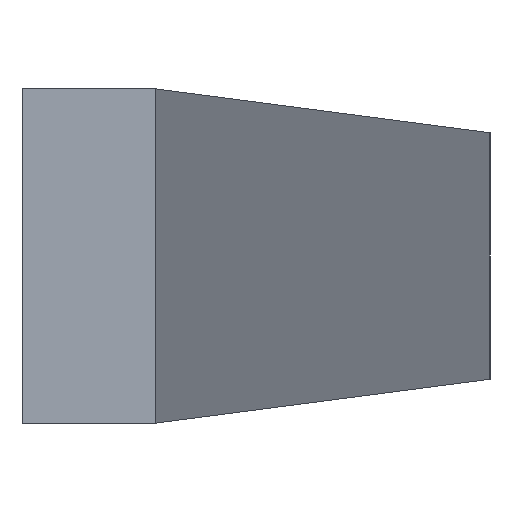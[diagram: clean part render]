
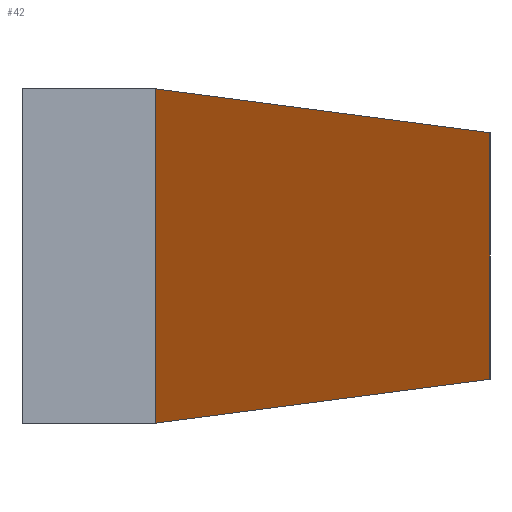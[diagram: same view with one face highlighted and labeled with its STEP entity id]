
A CAD part, left-side view. The second image highlights one B-rep face of the part: STEP entity #42.
In plain terms, the highlighted planar face has unit normal (-0.132, -0.991, 0).
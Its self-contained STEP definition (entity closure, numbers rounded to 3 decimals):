
#42 = ADVANCED_FACE( '', ( #92 ), #93, .F. );
#92 = FACE_OUTER_BOUND( '', #151, .T. );
#93 = PLANE( '', #152 );
#151 = EDGE_LOOP( '', ( #215, #216, #217, #218 ) );
#152 = AXIS2_PLACEMENT_3D( '', #219, #220, #221 );
#215 = ORIENTED_EDGE( '', *, *, #344, .T. );
#216 = ORIENTED_EDGE( '', *, *, #345, .T. );
#217 = ORIENTED_EDGE( '', *, *, #346, .F. );
#218 = ORIENTED_EDGE( '', *, *, #342, .T. );
#219 = CARTESIAN_POINT( '', ( -25., -10., 12.5 ) );
#220 = DIRECTION( '', ( 0.132, 0.991, 0. ) );
#221 = DIRECTION( '', ( -0.991, 0.132, 0. ) );
#342 = EDGE_CURVE( '', #384, #400, #402, .T. );
#344 = EDGE_CURVE( '', #400, #404, #405, .T. );
#345 = EDGE_CURVE( '', #404, #406, #407, .T. );
#346 = EDGE_CURVE( '', #384, #406, #408, .T. );
#384 = VERTEX_POINT( '', #458 );
#400 = VERTEX_POINT( '', #480 );
#402 = LINE( '', #483, #484 );
#404 = VERTEX_POINT( '', #486 );
#405 = LINE( '', #487, #488 );
#406 = VERTEX_POINT( '', #489 );
#407 = LINE( '', #490, #491 );
#408 = LINE( '', #492, #493 );
#458 = CARTESIAN_POINT( '', ( 162.868, -34.991, 9.221 ) );
#480 = CARTESIAN_POINT( '', ( -25., -10., 12.5 ) );
#483 = CARTESIAN_POINT( '', ( -25., -10., 12.5 ) );
#484 = VECTOR( '', #569, 1000. );
#486 = CARTESIAN_POINT( '', ( -25., -10., -12.5 ) );
#487 = CARTESIAN_POINT( '', ( -25., -10., 12.5 ) );
#488 = VECTOR( '', #570, 1000. );
#489 = CARTESIAN_POINT( '', ( 162.868, -34.991, -9.221 ) );
#490 = CARTESIAN_POINT( '', ( -24.571, -10.057, -12.493 ) );
#491 = VECTOR( '', #571, 1000. );
#492 = CARTESIAN_POINT( '', ( 162.868, -34.991, 12.5 ) );
#493 = VECTOR( '', #572, 1000. );
#569 = DIRECTION( '', ( -0.991, 0.132, 0.017 ) );
#570 = DIRECTION( '', ( 0., 0., -1. ) );
#571 = DIRECTION( '', ( 0.991, -0.132, 0.017 ) );
#572 = DIRECTION( '', ( 0., 0., -1. ) );
